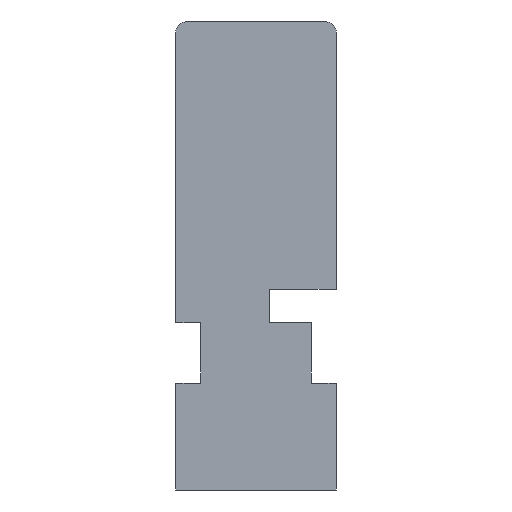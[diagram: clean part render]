
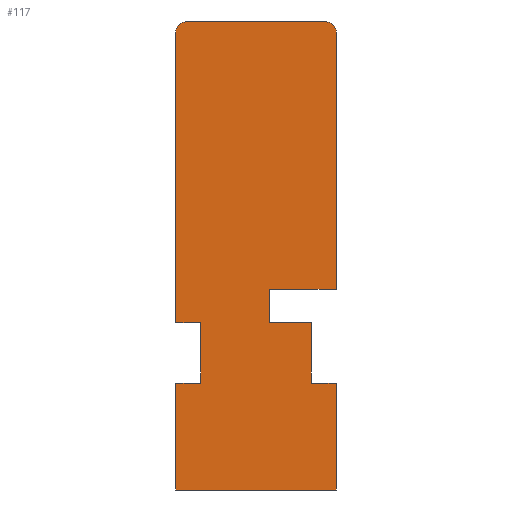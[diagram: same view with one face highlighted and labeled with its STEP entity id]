
A CAD part, left-side view. The second image highlights one B-rep face of the part: STEP entity #117.
In plain terms, the highlighted planar face has unit normal (-1, 0, 0).
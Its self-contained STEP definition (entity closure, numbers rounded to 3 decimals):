
#10 = VERTEX_POINT ( 'NONE', #311 ) ;
#15 = EDGE_CURVE ( 'NONE', #10, #145, #314, .T. ) ;
#17 = VERTEX_POINT ( 'NONE', #355 ) ;
#20 = VERTEX_POINT ( 'NONE', #315 ) ;
#21 = VERTEX_POINT ( 'NONE', #365 ) ;
#28 = VERTEX_POINT ( 'NONE', #316 ) ;
#34 = VERTEX_POINT ( 'NONE', #294 ) ;
#43 = VERTEX_POINT ( 'NONE', #349 ) ;
#55 = EDGE_LOOP ( 'NONE', ( #113, #188, #118, #57, #212, #166, #197, #183, #234, #179, #180, #238, #236, #182, #235, #181 ) ) ;
#56 = EDGE_CURVE ( 'NONE', #105, #21, #339, .T. ) ;
#57 = ORIENTED_EDGE ( 'NONE', *, *, #185, .F. ) ;
#65 = EDGE_CURVE ( 'NONE', #149, #34, #279, .T. ) ;
#79 = EDGE_CURVE ( 'NONE', #28, #149, #337, .T. ) ;
#94 = EDGE_CURVE ( 'NONE', #109, #105, #374, .T. ) ;
#105 = VERTEX_POINT ( 'NONE', #459 ) ;
#109 = VERTEX_POINT ( 'NONE', #439 ) ;
#113 = ORIENTED_EDGE ( 'NONE', *, *, #246, .F. ) ;
#117 = ADVANCED_FACE ( 'NONE', ( #427 ), #432, .F. ) ;
#118 = ORIENTED_EDGE ( 'NONE', *, *, #94, .F. ) ;
#125 = EDGE_CURVE ( 'NONE', #187, #43, #413, .T. ) ;
#126 = EDGE_CURVE ( 'NONE', #192, #187, #457, .T. ) ;
#134 = EDGE_CURVE ( 'NONE', #20, #28, #599, .T. ) ;
#139 = EDGE_CURVE ( 'NONE', #17, #20, #550, .T. ) ;
#145 = VERTEX_POINT ( 'NONE', #592 ) ;
#149 = VERTEX_POINT ( 'NONE', #539 ) ;
#159 = VERTEX_POINT ( 'NONE', #569 ) ;
#164 = EDGE_CURVE ( 'NONE', #165, #159, #544, .T. ) ;
#165 = VERTEX_POINT ( 'NONE', #512 ) ;
#166 = ORIENTED_EDGE ( 'NONE', *, *, #126, .F. ) ;
#179 = ORIENTED_EDGE ( 'NONE', *, *, #215, .F. ) ;
#180 = ORIENTED_EDGE ( 'NONE', *, *, #15, .F. ) ;
#181 = ORIENTED_EDGE ( 'NONE', *, *, #139, .F. ) ;
#182 = ORIENTED_EDGE ( 'NONE', *, *, #79, .F. ) ;
#183 = ORIENTED_EDGE ( 'NONE', *, *, #203, .F. ) ;
#185 = EDGE_CURVE ( 'NONE', #43, #109, #528, .T. ) ;
#187 = VERTEX_POINT ( 'NONE', #511 ) ;
#188 = ORIENTED_EDGE ( 'NONE', *, *, #56, .F. ) ;
#192 = VERTEX_POINT ( 'NONE', #526 ) ;
#196 = EDGE_CURVE ( 'NONE', #207, #192, #501, .T. ) ;
#197 = ORIENTED_EDGE ( 'NONE', *, *, #196, .F. ) ;
#203 = EDGE_CURVE ( 'NONE', #159, #207, #496, .T. ) ;
#207 = VERTEX_POINT ( 'NONE', #518 ) ;
#212 = ORIENTED_EDGE ( 'NONE', *, *, #125, .F. ) ;
#215 = EDGE_CURVE ( 'NONE', #145, #165, #481, .T. ) ;
#234 = ORIENTED_EDGE ( 'NONE', *, *, #164, .F. ) ;
#235 = ORIENTED_EDGE ( 'NONE', *, *, #134, .F. ) ;
#236 = ORIENTED_EDGE ( 'NONE', *, *, #65, .F. ) ;
#238 = ORIENTED_EDGE ( 'NONE', *, *, #241, .F. ) ;
#241 = EDGE_CURVE ( 'NONE', #34, #10, #460, .T. ) ;
#246 = EDGE_CURVE ( 'NONE', #21, #17, #560, .T. ) ;
#277 = DIRECTION ( 'NONE',  ( 0., 0., 1. ) ) ;
#278 = VECTOR ( 'NONE', #277, 1000. ) ;
#279 = LINE ( 'NONE', #347, #278 ) ;
#286 = DIRECTION ( 'NONE',  ( 0., -1., 0. ) ) ;
#287 = VECTOR ( 'NONE', #286, 1000. ) ;
#288 = CARTESIAN_POINT ( 'NONE',  ( 0., -4.15, 8. ) ) ;
#294 = CARTESIAN_POINT ( 'NONE',  ( 0., 4.15, 12.5 ) ) ;
#302 = CARTESIAN_POINT ( 'NONE',  ( 0., 6., 8. ) ) ;
#311 = CARTESIAN_POINT ( 'NONE',  ( 0., 6., 12.5 ) ) ;
#313 = CARTESIAN_POINT ( 'NONE',  ( 0., 6., 12.5 ) ) ;
#314 = LINE ( 'NONE', #313, #364 ) ;
#315 = CARTESIAN_POINT ( 'NONE',  ( 0., 6., 0. ) ) ;
#316 = CARTESIAN_POINT ( 'NONE',  ( 0., 6., 8. ) ) ;
#335 = DIRECTION ( 'NONE',  ( 0., -1., 0. ) ) ;
#336 = VECTOR ( 'NONE', #335, 1000. ) ;
#337 = LINE ( 'NONE', #302, #336 ) ;
#339 = LINE ( 'NONE', #288, #287 ) ;
#347 = CARTESIAN_POINT ( 'NONE',  ( 0., 4.15, 8. ) ) ;
#349 = CARTESIAN_POINT ( 'NONE',  ( 0., -1., 12.5 ) ) ;
#355 = CARTESIAN_POINT ( 'NONE',  ( 0., -6., 0. ) ) ;
#363 = DIRECTION ( 'NONE',  ( 0., 0., 1. ) ) ;
#364 = VECTOR ( 'NONE', #363, 1000. ) ;
#365 = CARTESIAN_POINT ( 'NONE',  ( 0., -6., 8. ) ) ;
#374 = LINE ( 'NONE', #407, #406 ) ;
#403 = DIRECTION ( 'NONE',  ( 0., 0., -1. ) ) ;
#406 = VECTOR ( 'NONE', #403, 1000. ) ;
#407 = CARTESIAN_POINT ( 'NONE',  ( 0., -4.15, 12.5 ) ) ;
#409 = CARTESIAN_POINT ( 'NONE',  ( 0., -6., 15. ) ) ;
#410 = DIRECTION ( 'NONE',  ( 0., 0., -1. ) ) ;
#411 = VECTOR ( 'NONE', #410, 1000. ) ;
#412 = CARTESIAN_POINT ( 'NONE',  ( 0., -1., 12.5 ) ) ;
#413 = LINE ( 'NONE', #412, #411 ) ;
#425 = DIRECTION ( 'NONE',  ( 0., 0., -1. ) ) ;
#427 = FACE_OUTER_BOUND ( 'NONE', #55, .T. ) ;
#431 = AXIS2_PLACEMENT_3D ( 'NONE', #438, #437, #425 ) ;
#432 = PLANE ( 'NONE',  #431 ) ;
#437 = DIRECTION ( 'NONE',  ( 1., 0., 0. ) ) ;
#438 = CARTESIAN_POINT ( 'NONE',  ( 0., 5.25, 34.25 ) ) ;
#439 = CARTESIAN_POINT ( 'NONE',  ( 0., -4.15, 12.5 ) ) ;
#454 = DIRECTION ( 'NONE',  ( 0., 1., 0. ) ) ;
#455 = VECTOR ( 'NONE', #454, 1000. ) ;
#457 = LINE ( 'NONE', #409, #455 ) ;
#459 = CARTESIAN_POINT ( 'NONE',  ( 0., -4.15, 8. ) ) ;
#460 = LINE ( 'NONE', #563, #562 ) ;
#471 = DIRECTION ( 'NONE',  ( 0., 0., -1. ) ) ;
#472 = DIRECTION ( 'NONE',  ( 1., 0., 0. ) ) ;
#473 = CARTESIAN_POINT ( 'NONE',  ( 0., 5.25, 34.25 ) ) ;
#477 = DIRECTION ( 'NONE',  ( 0., 0., -1. ) ) ;
#478 = CARTESIAN_POINT ( 'NONE',  ( 0., -6., 8. ) ) ;
#480 = AXIS2_PLACEMENT_3D ( 'NONE', #473, #472, #471 ) ;
#481 = CIRCLE ( 'NONE', #480, 0.75 ) ;
#492 = DIRECTION ( 'NONE',  ( 0., 0., -1. ) ) ;
#493 = DIRECTION ( 'NONE',  ( 1., 0., 0. ) ) ;
#494 = AXIS2_PLACEMENT_3D ( 'NONE', #516, #493, #492 ) ;
#496 = CIRCLE ( 'NONE', #494, 0.75 ) ;
#498 = DIRECTION ( 'NONE',  ( 0., 0., -1. ) ) ;
#499 = VECTOR ( 'NONE', #498, 1000. ) ;
#500 = CARTESIAN_POINT ( 'NONE',  ( 0., -6., 34.25 ) ) ;
#501 = LINE ( 'NONE', #500, #499 ) ;
#502 = CARTESIAN_POINT ( 'NONE',  ( 0., 6., 0. ) ) ;
#508 = DIRECTION ( 'NONE',  ( 0., -1., 0. ) ) ;
#509 = VECTOR ( 'NONE', #508, 1000. ) ;
#510 = CARTESIAN_POINT ( 'NONE',  ( 0., 5.25, 35. ) ) ;
#511 = CARTESIAN_POINT ( 'NONE',  ( 0., -1., 15. ) ) ;
#512 = CARTESIAN_POINT ( 'NONE',  ( 0., 5.25, 35. ) ) ;
#516 = CARTESIAN_POINT ( 'NONE',  ( 0., -5.25, 34.25 ) ) ;
#518 = CARTESIAN_POINT ( 'NONE',  ( 0., -6., 34.25 ) ) ;
#526 = CARTESIAN_POINT ( 'NONE',  ( 0., -6., 15. ) ) ;
#527 = VECTOR ( 'NONE', #566, 1000. ) ;
#528 = LINE ( 'NONE', #567, #527 ) ;
#531 = DIRECTION ( 'NONE',  ( 0., 1., 0. ) ) ;
#532 = VECTOR ( 'NONE', #531, 1000. ) ;
#539 = CARTESIAN_POINT ( 'NONE',  ( 0., 4.15, 8. ) ) ;
#544 = LINE ( 'NONE', #510, #509 ) ;
#549 = CARTESIAN_POINT ( 'NONE',  ( 0., -6., 0. ) ) ;
#550 = LINE ( 'NONE', #549, #532 ) ;
#560 = LINE ( 'NONE', #478, #579 ) ;
#561 = DIRECTION ( 'NONE',  ( 0., 1., 0. ) ) ;
#562 = VECTOR ( 'NONE', #561, 1000. ) ;
#563 = CARTESIAN_POINT ( 'NONE',  ( 0., 4.15, 12.5 ) ) ;
#566 = DIRECTION ( 'NONE',  ( 0., -1., 0. ) ) ;
#567 = CARTESIAN_POINT ( 'NONE',  ( 0., -4.15, 12.5 ) ) ;
#569 = CARTESIAN_POINT ( 'NONE',  ( 0., -5.25, 35. ) ) ;
#579 = VECTOR ( 'NONE', #477, 1000. ) ;
#590 = DIRECTION ( 'NONE',  ( 0., 0., 1. ) ) ;
#592 = CARTESIAN_POINT ( 'NONE',  ( 0., 6., 34.25 ) ) ;
#598 = VECTOR ( 'NONE', #590, 1000. ) ;
#599 = LINE ( 'NONE', #502, #598 ) ;
